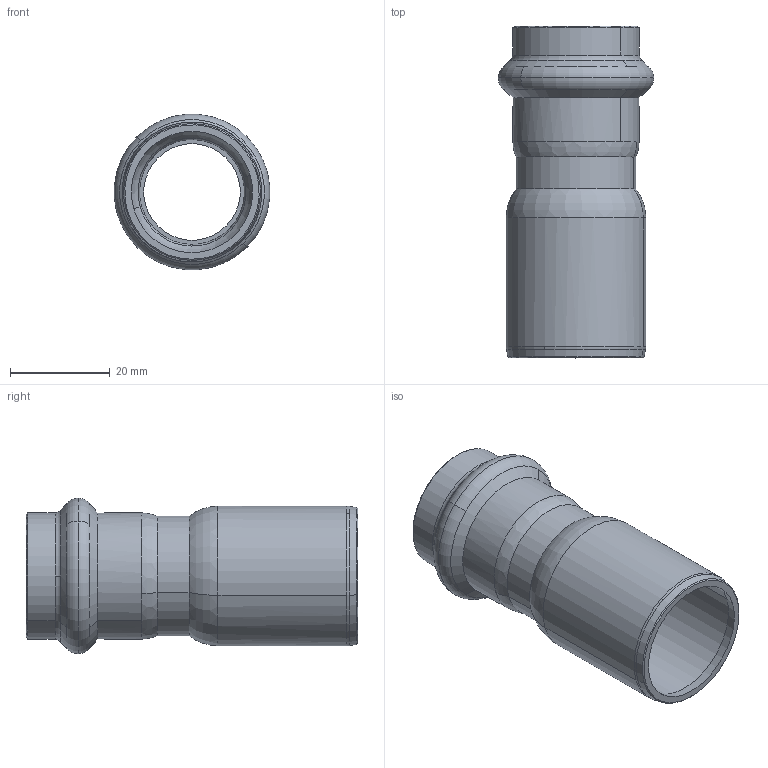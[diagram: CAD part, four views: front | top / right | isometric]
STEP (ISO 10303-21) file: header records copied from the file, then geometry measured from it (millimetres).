
FILE_DESCRIPTION(('CoCreate Modeling STEP Export'),'2;1');
FILE_NAME('8243VW2822.stp','2013-03-05T 9:26:05',(''),(''),'CoCreate Modeling STEP processor for AP214 (Solid Model)','CoCreate Modeling 17.00A 17-Jun-2010 (C) Parametric Technology GmbH','');
FILE_SCHEMA(('AUTOMOTIVE_DESIGN { 1 0 10303 214 1 1 1 1 }'));
Length unit declared in the file: millimetre
Products named in the file (1): 8243VW2822
Bounding box: 31.08 x 66.4 x 31.08 mm (x, y, z)
Volume: 9265 mm3; surface area: 11164.3 mm2
Topology: 1 solids, 1 shells, 60 faces, 161 edges, 105 vertices
Faces by surface type: torus 22, cylinder 18, cone 16, plane 4
Entity records: 1472 total; most frequent: ORIENTED_EDGE 322, CARTESIAN_POINT 225, DIRECTION 206, EDGE_CURVE 161, VERTEX_POINT 105, AXIS2_PLACEMENT_3D 86, EDGE_LOOP 64, FACE_OUTER_BOUND 60
